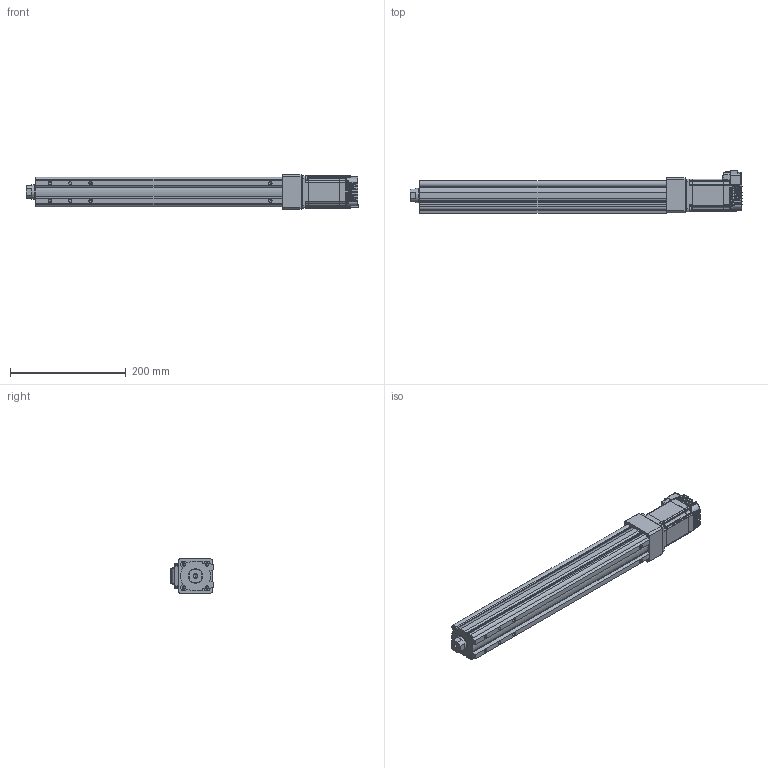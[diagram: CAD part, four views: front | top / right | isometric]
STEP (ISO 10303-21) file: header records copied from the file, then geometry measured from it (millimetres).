
FILE_DESCRIPTION (( 'STEP AP214' ), '1' );
FILE_NAME ('LEY3(+)-32DNM1□-300-23L.STEP', '2023-04-06T07:49:08', ( '' ), ( '' ), 'SwSTEP 2.0', 'SolidWorks 2019', '' );
FILE_SCHEMA (( 'AUTOMOTIVE_DESIGN' ));
Length unit declared in the file: millimetre
Products named in the file (5): CM3(+)-23L50A_2-M4_01; LEY3(+)-32DNM1_MOTOR Flange; LEY3(+)-32DNM1□-300-23L; LEY3(+)-32NM1?_ROD_300; LEY3(+)-32NM1?_BODY_300
Assembly tree (4 placements, depth 2):
  LEY3(+)-32DNM1□-300-23L
    LEY3(+)-32NM1?_BODY_300
    LEY3(+)-32NM1?_ROD_300
    LEY3(+)-32DNM1_MOTOR Flange
    CM3(+)-23L50A_2-M4_01
Bounding box: 572.8 x 73.75 x 60 mm (x, y, z)
Volume: 1373578.4 mm3; surface area: 231858.4 mm2
Topology: 4 solids, 13 shells, 1439 faces, 3713 edges, 2295 vertices
Faces by surface type: plane 668, cylinder 432, bspline 133, cone 101, torus 58, sphere 47
Full cylindrical faces by diameter (mm): 2.5 x4, 3 x2, 3.2 x4, 4.2 x1, 4.5 x7, 4.9 x10, 5 x1, 6.2 x4, 6.35 x1, 6.8 x1, 7 x2, 8 x2, 24.8 x1, 25 x2, 32 x2, 38.1 x1
Entity records: 49056 total; most frequent: CARTESIAN_POINT 12638, ORIENTED_EDGE 7102, DIRECTION 6555, EDGE_CURVE 3551, VERTEX_POINT 2267, AXIS2_PLACEMENT_3D 2230, LINE 2095, VECTOR 2095
